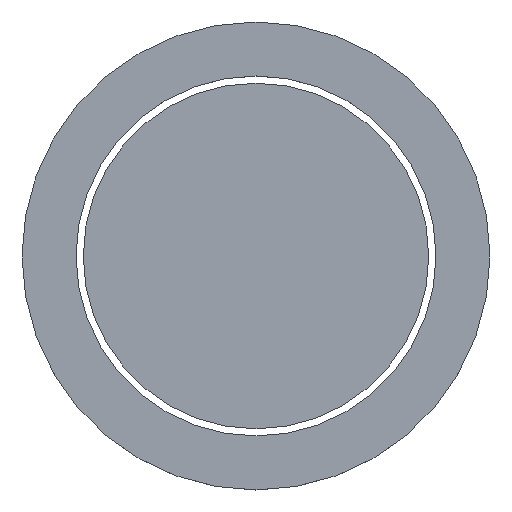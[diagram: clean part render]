
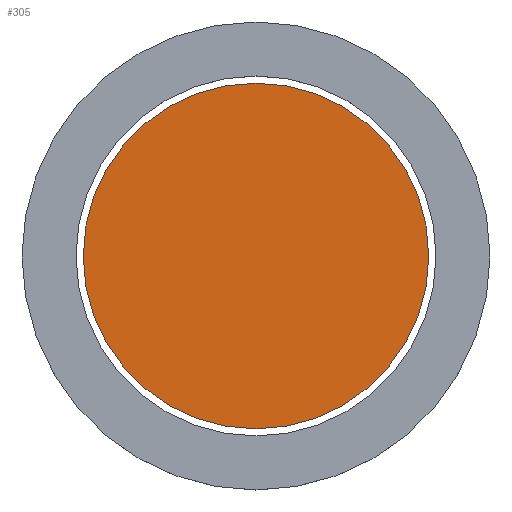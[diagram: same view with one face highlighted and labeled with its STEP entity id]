
A CAD part, top view. The second image highlights one B-rep face of the part: STEP entity #305.
In plain terms, the highlighted planar face has unit normal (0, 0, 1).
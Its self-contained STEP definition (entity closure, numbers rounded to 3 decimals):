
#220 = VERTEX_POINT('',#221);
#221 = CARTESIAN_POINT('',(24.,0.,1.));
#228 = CYLINDRICAL_SURFACE('',#229,24.);
#229 = AXIS2_PLACEMENT_3D('',#230,#231,#232);
#230 = CARTESIAN_POINT('',(0.,0.,0.));
#231 = DIRECTION('',(-0.,-0.,-1.));
#232 = DIRECTION('',(1.,0.,0.));
#247 = EDGE_CURVE('',#220,#220,#248,.T.);
#248 = SURFACE_CURVE('',#249,(#254,#261),.PCURVE_S1.);
#249 = CIRCLE('',#250,24.);
#250 = AXIS2_PLACEMENT_3D('',#251,#252,#253);
#251 = CARTESIAN_POINT('',(0.,0.,1.));
#252 = DIRECTION('',(0.,0.,1.));
#253 = DIRECTION('',(1.,0.,0.));
#254 = PCURVE('',#228,#255);
#255 = DEFINITIONAL_REPRESENTATION('',(#256),#260);
#256 = LINE('',#257,#258);
#257 = CARTESIAN_POINT('',(-0.,-1.));
#258 = VECTOR('',#259,1.);
#259 = DIRECTION('',(-1.,0.));
#260 = ( GEOMETRIC_REPRESENTATION_CONTEXT(2) 
PARAMETRIC_REPRESENTATION_CONTEXT() REPRESENTATION_CONTEXT('2D SPACE',''
  ) );
#261 = PCURVE('',#262,#267);
#262 = PLANE('',#263);
#263 = AXIS2_PLACEMENT_3D('',#264,#265,#266);
#264 = CARTESIAN_POINT('',(0.,0.,1.));
#265 = DIRECTION('',(0.,0.,1.));
#266 = DIRECTION('',(1.,0.,0.));
#267 = DEFINITIONAL_REPRESENTATION('',(#268),#272);
#268 = CIRCLE('',#269,24.);
#269 = AXIS2_PLACEMENT_2D('',#270,#271);
#270 = CARTESIAN_POINT('',(0.,0.));
#271 = DIRECTION('',(1.,0.));
#272 = ( GEOMETRIC_REPRESENTATION_CONTEXT(2) 
PARAMETRIC_REPRESENTATION_CONTEXT() REPRESENTATION_CONTEXT('2D SPACE',''
  ) );
#305 = ADVANCED_FACE('',(#306),#262,.T.);
#306 = FACE_BOUND('',#307,.T.);
#307 = EDGE_LOOP('',(#308));
#308 = ORIENTED_EDGE('',*,*,#247,.T.);
